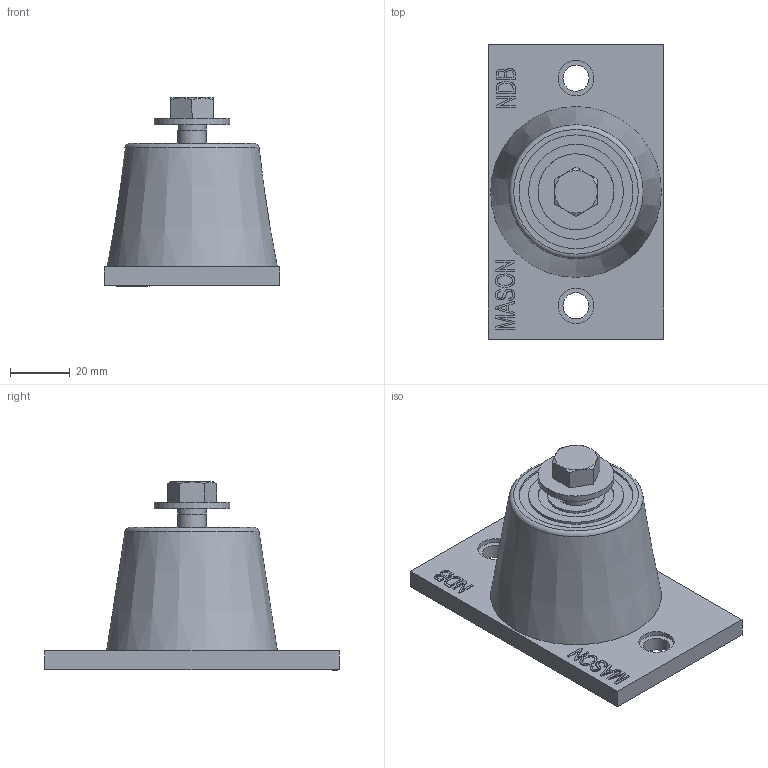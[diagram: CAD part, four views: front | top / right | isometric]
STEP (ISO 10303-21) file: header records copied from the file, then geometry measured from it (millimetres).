
FILE_DESCRIPTION((''),'2;1');
FILE_NAME('C:\2012_Work\Designs\ND\NDB\A-1010-2 NDB MOUNT-BLACK.stp','2013-09-10T14:04:22',('KShiels'),(''),'Autodesk Inventor 2012','Autodesk Inventor 2012','');
FILE_SCHEMA(('AUTOMOTIVE_DESIGN { 1 0 10303 214 1 1 1 1 }'));
Length unit declared in the file: inch
Products named in the file (6): A-1010-2 NDB MOUNT-BLACK; A-1010-2 NDB RUBBER-BLACK; A-1014-3 NDB TOP PLATE; ANSI_ASME B18.2.1 - 3_8-16 UNC - 1(2)_NDB; ANSI B18.22.1 - 3_8 - wide - Type A_NDB; A-1013-4 NDB BASE PLATE
Assembly tree (5 placements, depth 2):
  A-1010-2 NDB MOUNT-BLACK
    A-1010-2 NDB RUBBER-BLACK
    A-1014-3 NDB TOP PLATE
    ANSI_ASME B18.2.1 - 3_8-16 UNC - 1(2)_NDB
    ANSI B18.22.1 - 3_8 - wide - Type A_NDB
    A-1013-4 NDB BASE PLATE
Bounding box: 58.74 x 98.42 x 63.02 mm (x, y, z)
Volume: 118170 mm3; surface area: 40568.4 mm2
Topology: 5 solids, 5 shells, 378 faces, 963 edges, 638 vertices
Faces by surface type: plane 287, bspline 57, cylinder 21, cone 10, torus 3
Full cylindrical faces by diameter (mm): 7.798 x1, 8.731 x2, 9.525 x1, 9.922 x2, 11.125 x1, 11.906 x2, 12.7 x2, 14.275 x1, 19.05 x1, 25.4 x3, 30.163 x1, 31.75 x1, 38.1 x1, 41.275 x2
Entity records: 11704 total; most frequent: CARTESIAN_POINT 2832, ORIENTED_EDGE 1850, DIRECTION 1545, EDGE_CURVE 925, VECTOR 717, LINE 717, VERTEX_POINT 628, EDGE_LOOP 465
